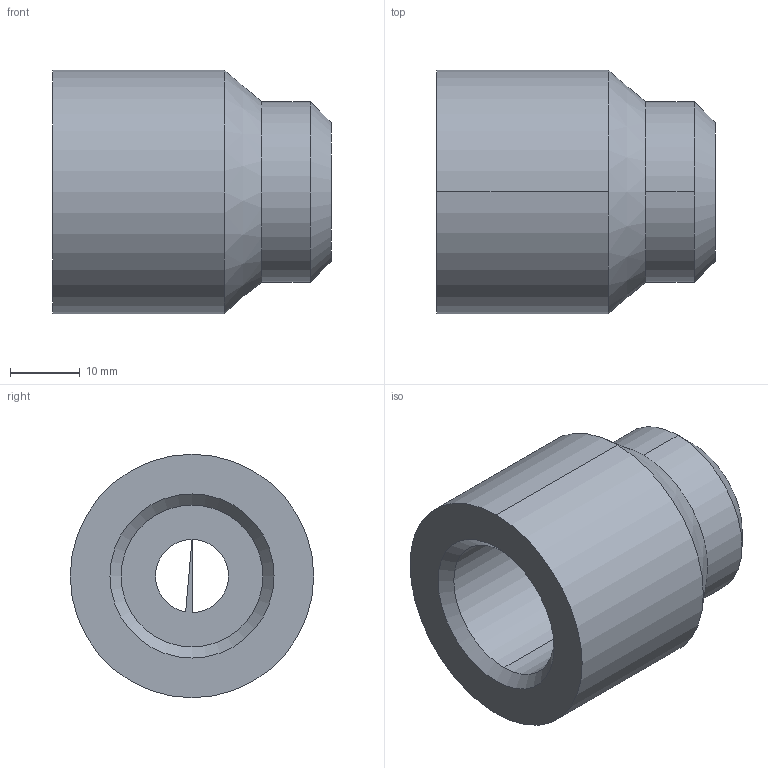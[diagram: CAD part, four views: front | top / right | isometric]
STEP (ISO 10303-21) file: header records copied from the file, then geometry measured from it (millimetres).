
FILE_DESCRIPTION(('TFLEX Exchange Step'),'2;1');
FILE_NAME('X2\0411043E0431044B0448043A0430\X0\ БПУ-М22-d10-М01.stp', '2020-10-14T17:08:11+05:00',('Пользователь'),('Unknown organisation'),'TFLEX Exchange 2019.1','T-FLEX CAD','Unknown authorisation');
FILE_SCHEMA( ('AUTOMOTIVE_DESIGN { 1 0 10303 214 1 1 1 1 }') );
Length unit declared in the file: millimetre
Products named in the file (1): Бобышка БПУ-М22-d10-М01
Bounding box: 40 x 35 x 35 mm (x, y, z)
Volume: 23522.5 mm3; surface area: 7411.5 mm2
Topology: 1 solids, 1 shells, 22 faces, 48 edges, 26 vertices
Faces by surface type: cylinder 10, cone 5, torus 4, plane 3
Entity records: 626 total; most frequent: DIRECTION 124, CARTESIAN_POINT 97, ORIENTED_EDGE 96, AXIS2_PLACEMENT_3D 53, EDGE_CURVE 48, CIRCLE 30, VERTEX_POINT 26, EDGE_LOOP 22
